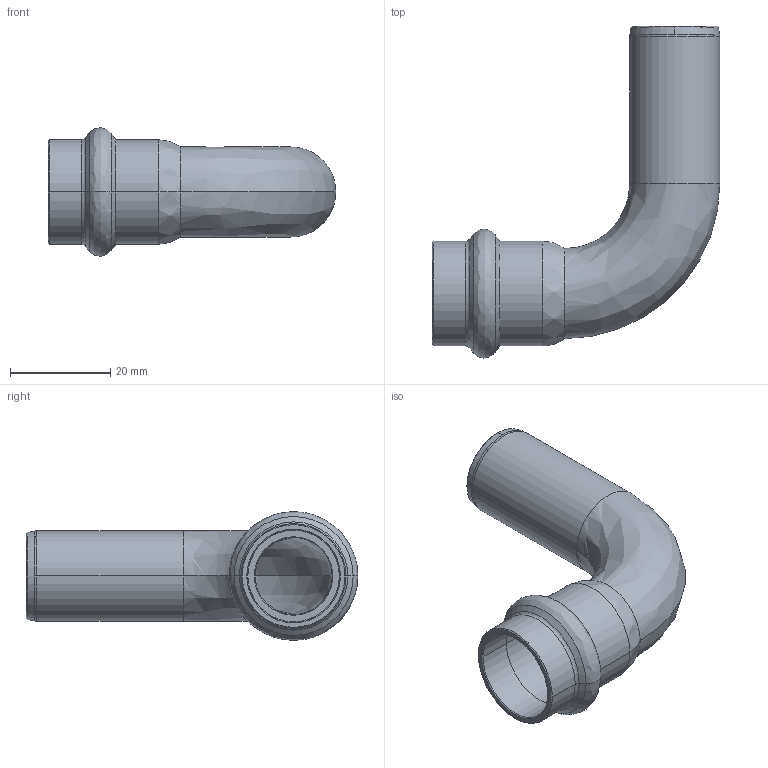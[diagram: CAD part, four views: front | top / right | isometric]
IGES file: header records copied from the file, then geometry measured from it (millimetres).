
Start section: Elysium IGES Interface
Global section: file name: C:\3d modellen sudo\C-Pr VP\SP8001V\8001VW18.igs; native system: CoCreate Modeling 17.00A  17-Jun-2010; preprocessor: CoCreate IGES_3D V2.2; author: Unknown; organization: Unknown; date: 20130129.135549; units: millimetre
Bounding box: 57.43 x 66.25 x 25.68 mm (x, y, z)
Volume: 7411 mm3; surface area: 10630.3 mm2
Topology: 1 solids, 1 shells, 52 faces, 114 edges, 66 vertices
Faces by surface type: bspline 52
